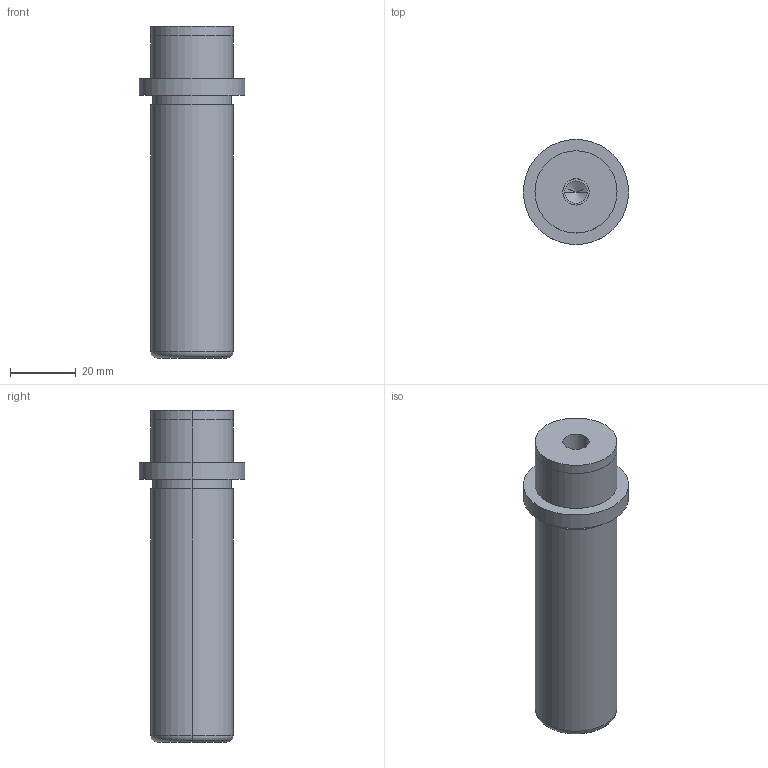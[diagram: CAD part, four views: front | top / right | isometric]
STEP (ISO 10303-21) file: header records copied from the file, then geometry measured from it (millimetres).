
FILE_DESCRIPTION(/* description */ (''),/* implementation_level */ '2;1');
FILE_NAME(/* name */ '3d_sgpw25-85_05241_r00.stp',/* time_stamp */ '2011-01-10T14:11:03+09:00',/* author */ ('MISUMI'),/* organization */ (''),/* preprocessor_version */ 'ST-DEVELOPER v11',/* originating_system */ 'UGS - NX 5.0',/* authorisation */ '');
FILE_SCHEMA (('CONFIG_CONTROL_DESIGN'));
Length unit declared in the file: millimetre
Products named in the file (1): 3d_sgpw25-85_05241_r00
Bounding box: 32 x 32 x 101 mm (x, y, z)
Volume: 48962.3 mm3; surface area: 10650.8 mm2
Topology: 1 solids, 1 shells, 31 faces, 64 edges, 38 vertices
Faces by surface type: cylinder 18, plane 7, cone 4, torus 2
Entity records: 890 total; most frequent: DIRECTION 162, CARTESIAN_POINT 130, ORIENTED_EDGE 120, AXIS2_PLACEMENT_3D 70, EDGE_CURVE 60, EDGE_LOOP 38, CIRCLE 38, VERTEX_POINT 38
